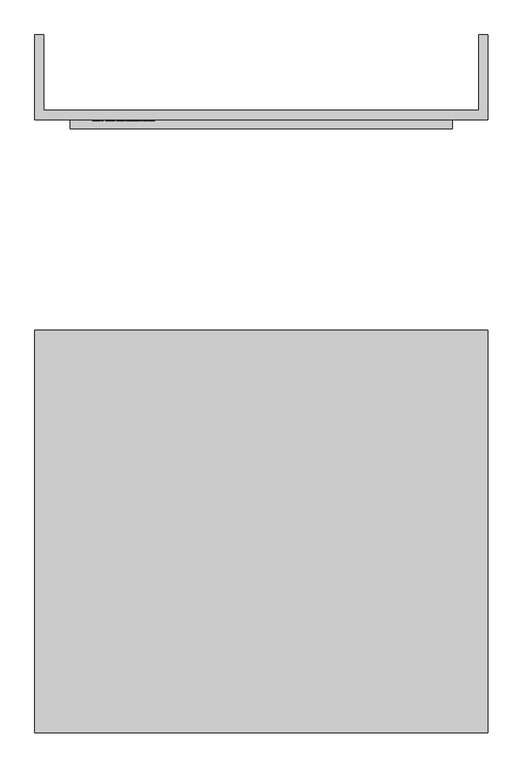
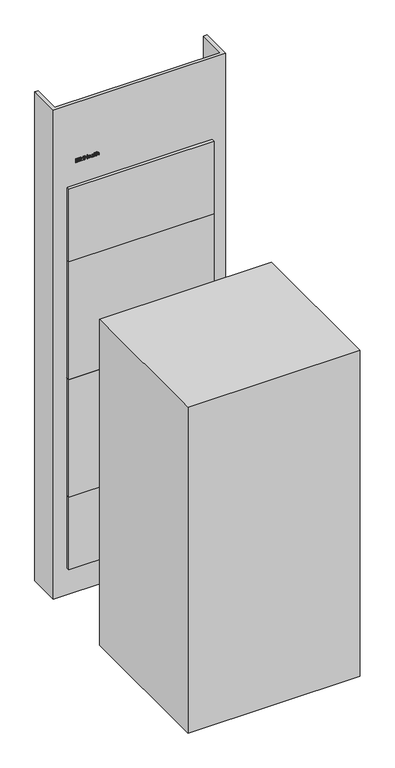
"""IFC4 building model written with IfcOpenShell, lengths in millimetres: furniture geometry, BIMHealth-Washstation-LOD2A-v1 : BIMHealth-Washstation-LOD2A-v1."""

from ifc_helpers import new_model, si_unit, frame, origin, origin_with_axes, place, context, project, spatial, polyline, outline, extrude, source, transform, mapped, element, save


def furniture_a2c4847b(model_context):
    return source(origin(), model_context, "Body", "SweptSolid", [
        extrude(outline(polyline([(2373.0972535, -785.4733843), (2373.0972535, -778.0166535), (2373.4361958, -774.8604035), (2374.4361958, -772.7185766), (2376.3208112, -771.2834804), (2378.9674458, -770.7041535), (2382.0299458, -771.5527112), (2383.8664843, -773.978192), (2385.6092727, -771.9805958), (2387.9097535, -771.3195381), (2390.4289843, -772.1055958), (2392.2102343, -774.2786728), (2392.7895612, -777.9589612), (2392.7895612, -785.4733843), (2373.0972535, -785.4733843)]), holes=[polyline([(2384.7895612, -783.0118458), (2390.3280227, -783.0118458), (2390.3280227, -778.8579997), (2390.0708112, -775.6945381), (2389.121292, -774.2762689), (2387.5155227, -773.7810766), (2385.9121574, -774.3123266), (2385.0010997, -775.8916535), (2384.7895612, -778.5166535), (2384.7895612, -783.0118458)]), polyline([(2375.558792, -783.0118458), (2382.3280227, -783.0118458), (2382.3280227, -778.2041535), (2381.9986958, -775.1632881), (2380.8568689, -773.6368458), (2378.9434074, -773.165692), (2376.1910035, -774.5911728), (2375.6549458, -776.1368458), (2375.558792, -777.9637689), (2375.558792, -783.0118458)])]), frame((0.0, -170.0, 0.0), z_axis=(0.0, 1.0, 0.0), x_axis=(0.0, 0.0, 1.0)), (0.0, 0.0, 1.0), 2.0),
        extrude(outline(polyline([(-764.5503074, -170.0), (-767.0118458, -170.0), (-767.0118458, -168.0), (-764.5503074, -168.0), (-764.5503074, -170.0)])), frame((0.0, 0.0, 2373.0972535), z_axis=(0.0, 0.0, 1.0), x_axis=(1.0, 0.0, 0.0)), (0.0, 0.0, 1.0), 19.6923077),
        extrude(outline(polyline([(2373.0972535, -759.6272304), (2373.0972535, -757.165692), (2390.3280227, -757.165692), (2373.0972535, -752.2137689), (2373.0972535, -748.8820381), (2390.3280227, -743.9349228), (2373.0972535, -743.9349228), (2373.0972535, -741.4733843), (2392.7895612, -741.4733843), (2392.7895612, -745.7089612), (2379.1501381, -749.6704997), (2376.0107151, -750.5503074), (2378.9097535, -751.3676151), (2392.7895612, -755.4060766), (2392.7895612, -759.6272304), (2373.0972535, -759.6272304)])), frame((0.0, -170.0, 0.0), z_axis=(0.0, 1.0, 0.0), x_axis=(0.0, 0.0, 1.0)), (0.0, 0.0, 1.0), 2.0),
        extrude(outline(polyline([(2373.0972535, -737.165692), (2373.0972535, -734.7041535), (2382.3280227, -734.7041535), (2382.3280227, -724.2426151), (2373.0972535, -724.2426151), (2373.0972535, -721.7810766), (2392.7895612, -721.7810766), (2392.7895612, -724.2426151), (2384.7895612, -724.2426151), (2384.7895612, -734.7041535), (2392.7895612, -734.7041535), (2392.7895612, -737.165692), (2373.0972535, -737.165692)])), frame((0.0, -170.0, 0.0), z_axis=(0.0, 1.0, 0.0), x_axis=(0.0, 0.0, 1.0)), (0.0, 0.0, 1.0), 2.0),
        extrude(outline(polyline([(2377.4049458, -707.6560766), (2375.7655227, -709.2426151), (2375.2510997, -711.6560766), (2376.3616766, -714.8267497), (2379.558792, -716.2426151), (2380.2222535, -705.165692), (2385.8616766, -707.0334804), (2387.8664843, -711.8435766), (2385.8568689, -716.7954997), (2380.2078304, -718.7041535), (2374.7390804, -716.8147304), (2372.7895612, -711.7041535), (2373.9193689, -707.4998266), (2377.0972535, -705.2426151), (2377.4049458, -707.6560766)]), holes=[polyline([(2382.0203304, -716.2426151), (2384.4842727, -714.884442), (2385.4049458, -711.853192), (2384.2510997, -708.6128074), (2382.0203304, -707.6272304), (2382.0203304, -716.2426151)])]), frame((0.0, -170.0, 0.0), z_axis=(0.0, 1.0, 0.0), x_axis=(0.0, 0.0, 1.0)), (0.0, 0.0, 1.0), 2.0),
        extrude(outline(polyline([(2374.9434074, -693.4733843), (2373.0972535, -692.8579997), (2373.0972535, -690.3964612), (2375.1669651, -690.8868458), (2379.4434074, -691.0118458), (2382.5059074, -691.0118458), (2384.6597535, -691.1320381), (2386.3304266, -691.8868458), (2387.4289843, -693.571942), (2387.8664843, -696.5551151), (2387.371292, -699.8027112), (2385.9626381, -701.946942), (2383.558792, -703.0118458), (2383.2510997, -700.5503074), (2384.9313881, -699.3628074), (2385.4049458, -696.8724228), (2384.6934074, -694.1512689), (2382.3280227, -693.4878074), (2381.4818689, -697.7570381), (2381.1116766, -699.8868458), (2380.3039843, -701.6104035), (2378.8905227, -702.8483843), (2376.9434074, -703.3195381), (2373.9578304, -702.071942), (2372.7895612, -698.4974228), (2373.2751381, -695.8604035), (2374.9434074, -693.4733843)]), holes=[polyline([(2379.5179266, -693.4805958), (2377.2655227, -693.8772304), (2375.840042, -695.4829997), (2375.2510997, -697.9733843), (2378.7126381, -699.5623266), (2379.1116766, -697.4445381), (2379.5179266, -693.4805958)])]), frame((0.0, -170.0, 0.0), z_axis=(0.0, 1.0, 0.0), x_axis=(0.0, 0.0, 1.0)), (0.0, 0.0, 1.0), 2.0),
        extrude(outline(polyline([(-685.165692, -170.0), (-687.6272304, -170.0), (-687.6272304, -168.0), (-685.165692, -168.0), (-685.165692, -170.0)])), frame((0.0, 0.0, 2373.0972535), z_axis=(0.0, 0.0, 1.0), x_axis=(1.0, 0.0, 0.0)), (0.0, 0.0, 1.0), 19.6923077),
        extrude(outline(polyline([(2376.1429266, -677.4733843), (2385.0972535, -678.7041535), (2385.0972535, -676.2426151), (2387.558792, -676.2426151), (2387.558792, -678.7041535), (2392.5203304, -678.7041535), (2391.0732151, -681.165692), (2387.558792, -681.165692), (2387.558792, -683.0118458), (2385.0972535, -683.0118458), (2385.0972535, -681.165692), (2377.0635997, -681.165692), (2373.1982151, -679.8387689), (2372.7895612, -677.7762689), (2373.0251381, -675.9349228), (2376.1429266, -677.4733843)])), frame((0.0, -170.0, 0.0), z_axis=(0.0, 1.0, 0.0), x_axis=(0.0, 0.0, 1.0)), (0.0, 0.0, 1.0), 2.0),
        extrude(outline(polyline([(2373.0972535, -673.7810766), (2373.0972535, -671.3195381), (2380.7799458, -671.3195381), (2383.371292, -670.9180958), (2384.8568689, -669.571942), (2385.4049458, -667.5551151), (2384.5924458, -665.3339612), (2381.996292, -664.5503074), (2373.0972535, -664.5503074), (2373.0972535, -662.0887689), (2382.2510997, -662.0887689), (2385.4866766, -662.5935766), (2387.2342727, -664.2714612), (2387.8664843, -667.0358843), (2385.5491766, -671.3195381), (2392.7895612, -671.3195381), (2392.7895612, -673.7810766), (2373.0972535, -673.7810766)])), frame((0.0, -170.0, 0.0), z_axis=(0.0, 1.0, 0.0), x_axis=(0.0, 0.0, 1.0)), (0.0, 0.0, 1.0), 2.0),
        extrude(outline(polyline([(-70.0, -168.0), (-70.0, -186.0), (-830.0, -186.0), (-830.0, -168.0), (-70.0, -168.0)])), frame((0.0, 0.0, 1850.0), z_axis=(0.0, 0.0, 1.0), x_axis=(1.0, 0.0, 0.0)), (0.0, 0.0, 1.0), 400.0),
        extrude(outline(polyline([(-70.0, -168.0), (-70.0, -186.0), (-830.0, -186.0), (-830.0, -168.0), (-70.0, -168.0)])), frame((0.0, 0.0, 1200.0), z_axis=(0.0, 0.0, 1.0), x_axis=(1.0, 0.0, 0.0)), (0.0, 0.0, 1.0), 650.0),
        extrude(outline(polyline([(-70.0, -168.0), (-70.0, -186.0), (-830.0, -186.0), (-830.0, -168.0), (-70.0, -168.0)])), frame((0.0, 0.0, 550.0), z_axis=(0.0, 0.0, 1.0), x_axis=(1.0, 0.0, 0.0)), (0.0, 0.0, 1.0), 650.0),
        extrude(outline(polyline([(-70.0, -168.0), (-70.0, -186.0), (-830.0, -186.0), (-830.0, -168.0), (-70.0, -168.0)])), frame((0.0, 0.0, 150.0), z_axis=(0.0, 0.0, 1.0), x_axis=(1.0, 0.0, 0.0)), (0.0, 0.0, 1.0), 400.0),
        extrude(outline(polyline([(-900.0, -168.0), (-900.0, 0.0), (-882.0, 0.0), (-882.0, -150.0), (-18.0, -150.0), (-18.0, 0.0), (0.0, 0.0), (0.0, -168.0), (-900.0, -168.0)])), origin_with_axes(), (0.0, 0.0, 1.0), 2700.0),
        extrude(outline(polyline([(0.0, -586.0), (0.0, -1386.0), (-900.0, -1386.0), (-900.0, -586.0), (0.0, -586.0)])), origin_with_axes(), (0.0, 0.0, 1.0), 1800.0),
        extrude(outline(polyline([(-750.0, -1186.0), (-750.0, -586.0), (-150.0, -586.0), (-150.0, -1186.0), (-750.0, -1186.0)])), origin_with_axes(), (0.0, 0.0, 1.0), 600.0),
    ])


if __name__ == "__main__":
    model = new_model("IFC4")
    model_context = context("Model", 3, world=origin())
    ifc_project = project(units=[si_unit("LENGTHUNIT", "METRE", prefix="MILLI")], contexts=[model_context])
    site = spatial("IfcSite", under=ifc_project)
    building = spatial("IfcBuilding", under=site)
    placement = place(None, origin())
    furniture_shape = furniture_a2c4847b(model_context)
    element("IfcFurniture", 1, ObjectType="BIMHealth-Washstation-LOD2A-v1 : BIMHealth-Washstation-LOD2A-v1", at=placement, inside=building, context=model_context, shape_type="MappedRepresentation", body=[
        mapped(furniture_shape, transform((0.0, 0.0, 0.0), x_axis=(1.0, 0.0, 0.0), y_axis=(0.0, 1.0, 0.0), z_axis=(0.0, 0.0, 1.0))),
    ])
    save(model, "model.ifc")
